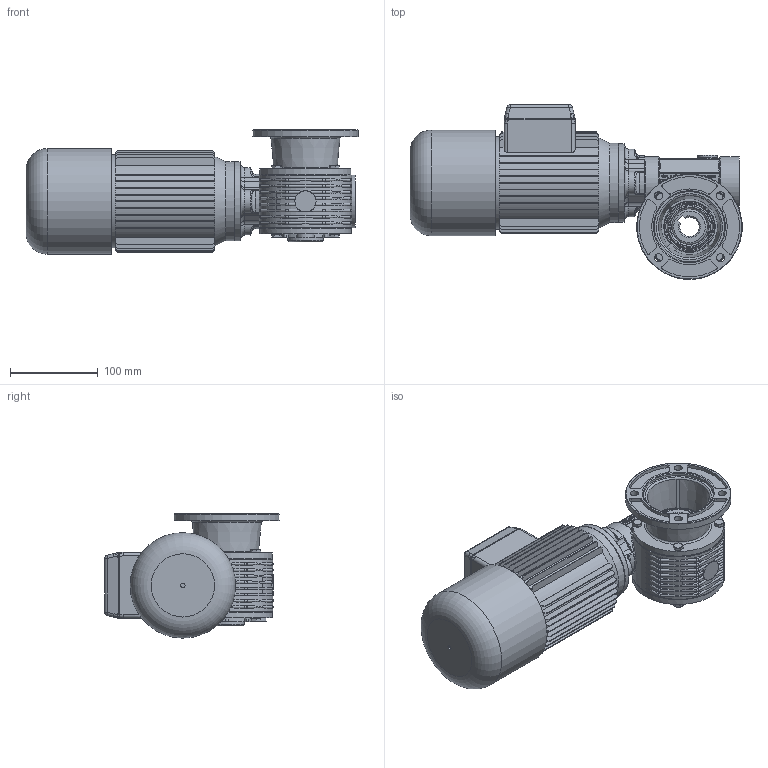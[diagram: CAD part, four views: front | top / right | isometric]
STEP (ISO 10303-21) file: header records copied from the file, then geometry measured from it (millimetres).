
FILE_DESCRIPTION((''),'2;1');
FILE_NAME('Y:\Archivi Inventor\Prog_01\GRAND_10\Figurini\mrv10 VECCHIO\pam63 b14 - B\MRV10 PAM63B14 F1 B.stp','2014-01-15T09:58:20',('tech3'),(''),'Autodesk Inventor 2013','Autodesk Inventor 2013','');
FILE_SCHEMA(('AUTOMOTIVE_DESIGN { 1 0 10303 214 1 1 1 1 }'));
Length unit declared in the file: millimetre
Products named in the file (16): mrv10; V10_PRIMARIO; carcassa mrv10 fig; corona MRV10-f22 fig; flangia riduttore Mrv10 fig; coperchio laterale mrv10 fig; RCA_40x7; 40_52_8; Tappo 3_8 GAS_esagn_incsst; Guarnizione 3_8 GAS; DIN EN 24017 M6 x 16; 0101029; 0101028; 0101006; DIN EN ISO 4762 M6 x 16; motori B14 brake 63
Assembly tree (27 placements, depth 3):
  mrv10
    V10_PRIMARIO
      carcassa mrv10 fig
      corona MRV10-f22 fig
      flangia riduttore Mrv10 fig
      coperchio laterale mrv10 fig
      RCA_40x7
      40_52_8  x2
      Tappo 3_8 GAS_esagn_incsst
      Guarnizione 3_8 GAS
      DIN EN 24017 M6 x 16  x8
      0101029  x2
      0101028
    0101006
    DIN EN ISO 4762 M6 x 16  x4
    motori B14 brake 63
Bounding box: 377.72 x 198.77 x 141.35 mm (x, y, z)
Volume: 2577380.1 mm3; surface area: 438982.3 mm2
Topology: 27 solids, 31 shells, 1851 faces, 4688 edges, 3000 vertices
Faces by surface type: plane 1016, cylinder 378, bspline 224, cone 125, torus 100, sphere 8
Full cylindrical faces by diameter (mm): 2 x2, 4.134 x4, 4.917 x12, 5 x1, 6 x20, 6.5 x21, 8 x1, 8.88 x8, 9.25 x4, 10 x4, 11 x5, 14.95 x1, 16.3 x1, 16.5 x1, 22 x2, 24 x1, 35 x1, 35.2 x1, 39.4 x2, 40 x11, 42.5 x1, 42.881 x2, 47.232 x2, 52 x4, 60 x4, 80 x2, 81 x1, 82 x6, 90 x2, 103.5 x2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
Entity records: 54662 total; most frequent: CARTESIAN_POINT 16008, ORIENTED_EDGE 8050, DIRECTION 7249, EDGE_CURVE 4025, VERTEX_POINT 2687, AXIS2_PLACEMENT_3D 2507, VECTOR 2235, LINE 2235
